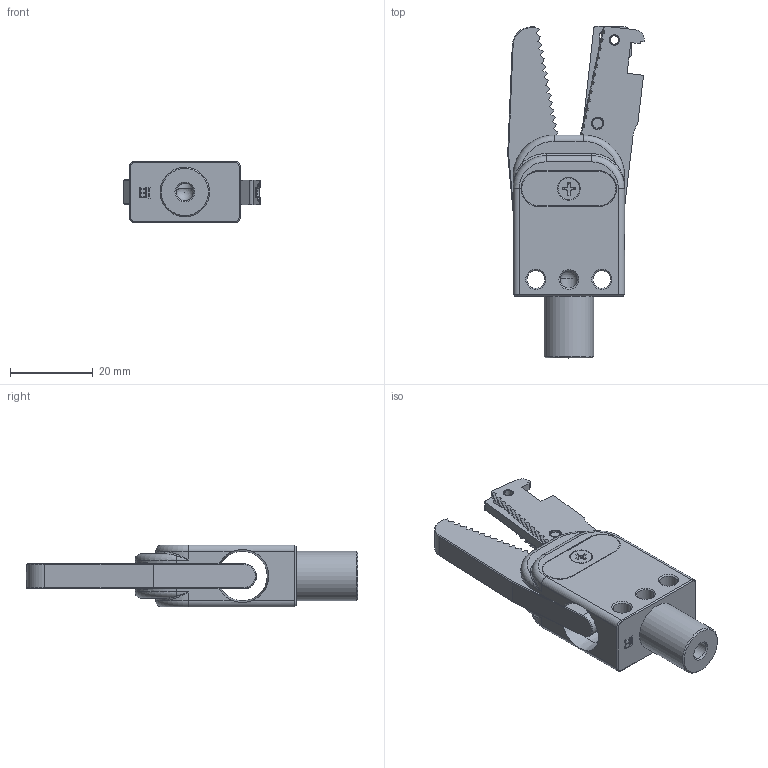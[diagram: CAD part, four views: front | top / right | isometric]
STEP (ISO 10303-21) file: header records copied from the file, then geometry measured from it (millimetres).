
FILE_DESCRIPTION(/* description */ (''),/* implementation_level */ '2;1');
FILE_NAME(/* name */ 'GR12B-12.stp',/* time_stamp */ '2023-03-08T11:47:25+08:00',/* author */ (''),/* organization */ (''),/* preprocessor_version */ 'ST-DEVELOPER v16',/* originating_system */ 'SIEMENS PLM Software NX 10.0',/* authorisation */ '');
FILE_SCHEMA (('AUTOMOTIVE_DESIGN { 1 0 10303 214 3 1 1 1 }'));
Length unit declared in the file: millimetre
Products named in the file (1): Admi115498B06ite
Bounding box: 33.08 x 80.42 x 15 mm (x, y, z)
Volume: 15310.7 mm3; surface area: 9608.1 mm2
Topology: 1 solids, 10 shells, 601 faces, 1634 edges, 1057 vertices
Faces by surface type: plane 421, cylinder 90, cone 55, bspline 22, torus 12, sphere 1
Full cylindrical faces by diameter (mm): 2.2 x2, 2.5 x4, 3 x5, 3.2 x2, 3.5 x1, 4.2 x2, 4.3 x3, 5.2 x1, 12 x2
Entity records: 23010 total; most frequent: CARTESIAN_POINT 4112, ORIENTED_EDGE 3120, DIRECTION 2862, EDGE_CURVE 1560, LINE 1154, VECTOR 1154, VERTEX_POINT 1032, AXIS2_PLACEMENT_3D 854
